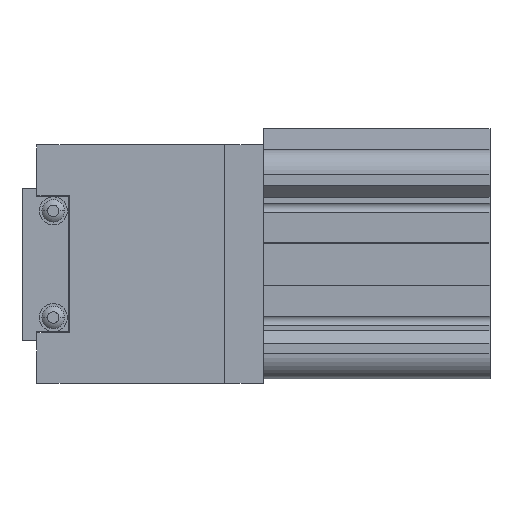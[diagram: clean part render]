
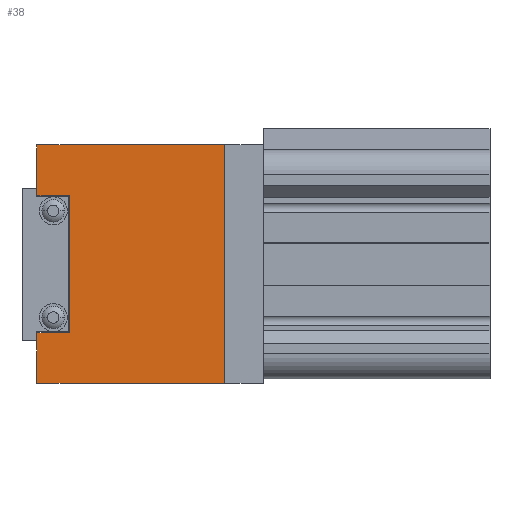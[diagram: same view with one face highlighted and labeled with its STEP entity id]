
A CAD part, left-side view. The second image highlights one B-rep face of the part: STEP entity #38.
In plain terms, the highlighted planar face has unit normal (-1, 0, 0).
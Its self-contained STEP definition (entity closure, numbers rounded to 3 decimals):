
#38 = ADVANCED_FACE ( 'NONE', ( #4662 ), #8901, .F. ) ;
#414 = ORIENTED_EDGE ( 'NONE', *, *, #4886, .T. ) ;
#415 = ORIENTED_EDGE ( 'NONE', *, *, #4879, .F. ) ;
#416 = ORIENTED_EDGE ( 'NONE', *, *, #4885, .F. ) ;
#417 = ORIENTED_EDGE ( 'NONE', *, *, #4883, .F. ) ;
#418 = ORIENTED_EDGE ( 'NONE', *, *, #4884, .F. ) ;
#419 = ORIENTED_EDGE ( 'NONE', *, *, #4882, .F. ) ;
#420 = ORIENTED_EDGE ( 'NONE', *, *, #4880, .T. ) ;
#421 = ORIENTED_EDGE ( 'NONE', *, *, #4881, .T. ) ;
#1416 = CARTESIAN_POINT ( 'NONE',  ( -85., 13., -40. ) ) ;
#1472 = CARTESIAN_POINT ( 'NONE',  ( -85., 76., 23. ) ) ;
#1505 = CARTESIAN_POINT ( 'NONE',  ( -85., 76., -23. ) ) ;
#1508 = CARTESIAN_POINT ( 'NONE',  ( -85., 65., -23. ) ) ;
#1509 = CARTESIAN_POINT ( 'NONE',  ( -85., 76., 40. ) ) ;
#1511 = CARTESIAN_POINT ( 'NONE',  ( -85., 76., -40. ) ) ;
#1512 = CARTESIAN_POINT ( 'NONE',  ( -85., 65., 23. ) ) ;
#1513 = CARTESIAN_POINT ( 'NONE',  ( -85., 13., 40. ) ) ;
#2550 = CARTESIAN_POINT ( 'NONE',  ( -85., 13., -40. ) ) ;
#2552 = CARTESIAN_POINT ( 'NONE',  ( -85., 76., -40. ) ) ;
#2554 = CARTESIAN_POINT ( 'NONE',  ( -85., 76., -40. ) ) ;
#2555 = DIRECTION ( 'NONE',  ( 0., 0., 1. ) ) ;
#2556 = CARTESIAN_POINT ( 'NONE',  ( -85., 76., -40. ) ) ;
#2557 = CARTESIAN_POINT ( 'NONE',  ( -85., 65., 23. ) ) ;
#2558 = DIRECTION ( 'NONE',  ( 0., -1., 0. ) ) ;
#2559 = DIRECTION ( 'NONE',  ( 0., 0., 1. ) ) ;
#2560 = CARTESIAN_POINT ( 'NONE',  ( -85., 76., 40. ) ) ;
#2561 = CARTESIAN_POINT ( 'NONE',  ( -85., 65., -23. ) ) ;
#2562 = DIRECTION ( 'NONE',  ( 0., -1., 0. ) ) ;
#2563 = DIRECTION ( 'NONE',  ( 0., 0., 1. ) ) ;
#2564 = CARTESIAN_POINT ( 'NONE',  ( -85., 65., -23. ) ) ;
#2565 = DIRECTION ( 'NONE',  ( 0., 1., 0. ) ) ;
#2566 = DIRECTION ( 'NONE',  ( 0., 0., 1. ) ) ;
#2567 = DIRECTION ( 'NONE',  ( 0., 1., 0. ) ) ;
#3000 = LINE ( 'NONE', #2550, #3011 ) ;
#3003 = LINE ( 'NONE', #2554, #3007 ) ;
#3006 = LINE ( 'NONE', #2556, #3009 ) ;
#3007 = VECTOR ( 'NONE', #2555, 1000. ) ;
#3008 = LINE ( 'NONE', #2552, #3015 ) ;
#3009 = VECTOR ( 'NONE', #2558, 1000. ) ;
#3010 = LINE ( 'NONE', #2560, #3013 ) ;
#3011 = VECTOR ( 'NONE', #2559, 1000. ) ;
#3012 = LINE ( 'NONE', #2557, #3017 ) ;
#3013 = VECTOR ( 'NONE', #2562, 1000. ) ;
#3014 = LINE ( 'NONE', #2561, #3019 ) ;
#3015 = VECTOR ( 'NONE', #2563, 1000. ) ;
#3016 = LINE ( 'NONE', #2564, #3021 ) ;
#3017 = VECTOR ( 'NONE', #2565, 1000. ) ;
#3019 = VECTOR ( 'NONE', #2566, 1000. ) ;
#3021 = VECTOR ( 'NONE', #2567, 1000. ) ;
#4274 = EDGE_LOOP ( 'NONE', ( #420, #421, #419, #417, #418, #416, #414, #415 ) ) ;
#4476 = VERTEX_POINT ( 'NONE', #1416 ) ;
#4532 = VERTEX_POINT ( 'NONE', #1472 ) ;
#4565 = VERTEX_POINT ( 'NONE', #1505 ) ;
#4568 = VERTEX_POINT ( 'NONE', #1508 ) ;
#4569 = VERTEX_POINT ( 'NONE', #1509 ) ;
#4571 = VERTEX_POINT ( 'NONE', #1511 ) ;
#4572 = VERTEX_POINT ( 'NONE', #1512 ) ;
#4573 = VERTEX_POINT ( 'NONE', #1513 ) ;
#4662 = FACE_OUTER_BOUND ( 'NONE', #4274, .T. ) ;
#4879 = EDGE_CURVE ( 'NONE', #4571, #4565, #3003, .T. ) ;
#4880 = EDGE_CURVE ( 'NONE', #4571, #4476, #3006, .T. ) ;
#4881 = EDGE_CURVE ( 'NONE', #4476, #4573, #3000, .T. ) ;
#4882 = EDGE_CURVE ( 'NONE', #4569, #4573, #3010, .T. ) ;
#4883 = EDGE_CURVE ( 'NONE', #4532, #4569, #3008, .T. ) ;
#4884 = EDGE_CURVE ( 'NONE', #4572, #4532, #3012, .T. ) ;
#4885 = EDGE_CURVE ( 'NONE', #4568, #4572, #3014, .T. ) ;
#4886 = EDGE_CURVE ( 'NONE', #4568, #4565, #3016, .T. ) ;
#8154 = AXIS2_PLACEMENT_3D ( 'NONE', #8898, #8903, #8904 ) ;
#8898 = CARTESIAN_POINT ( 'NONE',  ( -85., 76., -40. ) ) ;
#8901 = PLANE ( 'NONE',  #8154 ) ;
#8903 = DIRECTION ( 'NONE',  ( 1., 0., 0. ) ) ;
#8904 = DIRECTION ( 'NONE',  ( 0., 0., -1. ) ) ;
